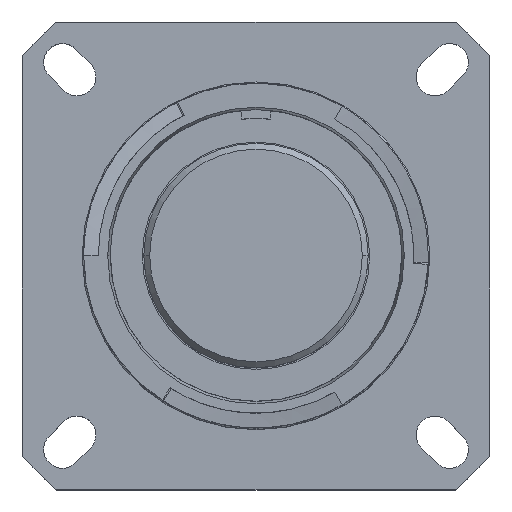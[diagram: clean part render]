
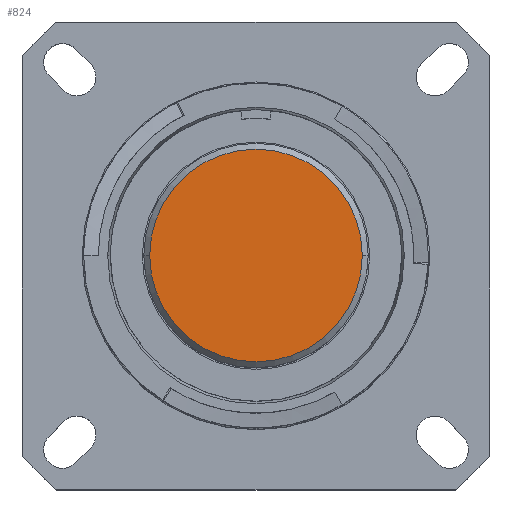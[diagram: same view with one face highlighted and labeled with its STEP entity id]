
A CAD part, top view. The second image highlights one B-rep face of the part: STEP entity #824.
In plain terms, the highlighted planar face has unit normal (0, 0, 1).
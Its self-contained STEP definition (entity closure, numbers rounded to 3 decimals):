
#47 = DIRECTION ( 'NONE',  ( 0., 0., 1. ) ) ;
#493 = CARTESIAN_POINT ( 'NONE',  ( 0., 0., -0.457 ) ) ;
#824 = ADVANCED_FACE ( 'NONE', ( #1415 ), #1908, .T. ) ;
#863 = CARTESIAN_POINT ( 'NONE',  ( 0., 0., -0.457 ) ) ;
#1415 = FACE_OUTER_BOUND ( 'NONE', #2117, .T. ) ;
#1908 = PLANE ( 'NONE',  #5268 ) ;
#2117 = EDGE_LOOP ( 'NONE', ( #3325, #2158 ) ) ;
#2158 = ORIENTED_EDGE ( 'NONE', *, *, #4656, .T. ) ;
#2696 = DIRECTION ( 'NONE',  ( 0., 0., 1. ) ) ;
#3325 = ORIENTED_EDGE ( 'NONE', *, *, #3706, .T. ) ;
#3510 = CARTESIAN_POINT ( 'NONE',  ( -9.208, 0., -0.457 ) ) ;
#3706 = EDGE_CURVE ( 'NONE', #5235, #4878, #5647, .T. ) ;
#3768 = CIRCLE ( 'NONE', #4144, 9.208 ) ;
#4144 = AXIS2_PLACEMENT_3D ( 'NONE', #863, #47, #5438 ) ;
#4521 = AXIS2_PLACEMENT_3D ( 'NONE', #4529, #2696, #5435 ) ;
#4529 = CARTESIAN_POINT ( 'NONE',  ( 0., 0., -0.457 ) ) ;
#4656 = EDGE_CURVE ( 'NONE', #4878, #5235, #3768, .T. ) ;
#4878 = VERTEX_POINT ( 'NONE', #5585 ) ;
#5001 = DIRECTION ( 'NONE',  ( 0., 0., 1. ) ) ;
#5235 = VERTEX_POINT ( 'NONE', #3510 ) ;
#5268 = AXIS2_PLACEMENT_3D ( 'NONE', #493, #5001, #5497 ) ;
#5435 = DIRECTION ( 'NONE',  ( 1., 0., 0. ) ) ;
#5438 = DIRECTION ( 'NONE',  ( 1., 0., 0. ) ) ;
#5497 = DIRECTION ( 'NONE',  ( 1., 0., 0. ) ) ;
#5585 = CARTESIAN_POINT ( 'NONE',  ( 9.208, 0., -0.457 ) ) ;
#5647 = CIRCLE ( 'NONE', #4521, 9.208 ) ;
